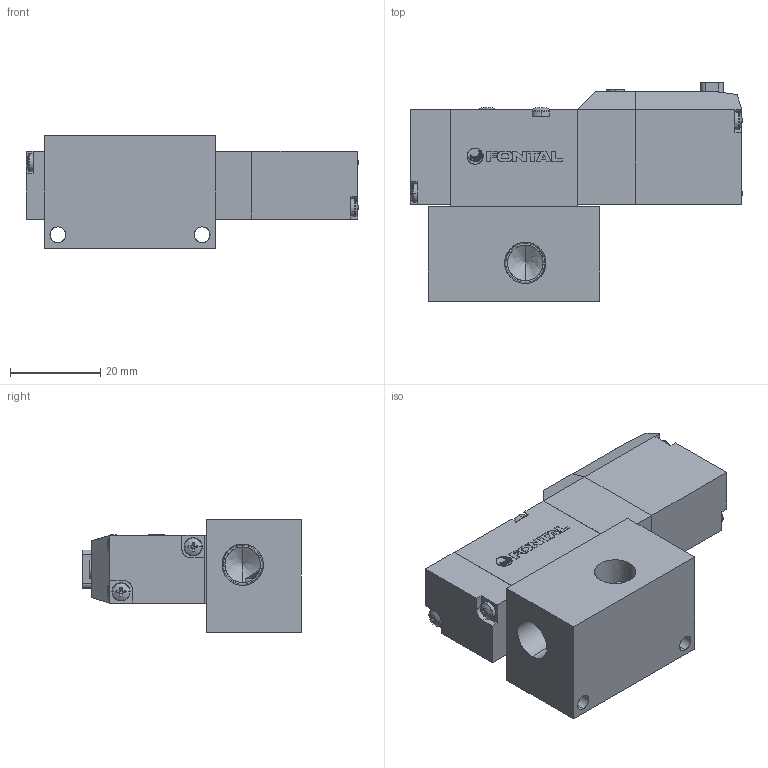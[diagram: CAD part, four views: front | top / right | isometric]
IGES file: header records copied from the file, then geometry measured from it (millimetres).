
Start section: SolidWorks IGES file using analytic representation for surfaces
Global section: file name: C:\Users\Sam Lin\Desktop\PCS245#-01-#-L-#.IGS; native system: SolidWorks 2013; preprocessor: SolidWorks 2013; author: Sam Lin; date: 150805.140448; units: metre
Bounding box: 73.64 x 48.5 x 25 mm (x, y, z)
Surface area: 17028.8 mm2 (no closed solid volume)
Topology: 0 solids, 0 shells, 499 faces, 4815 edges, 4761 vertices
Faces by surface type: bspline 312, revolution 187
